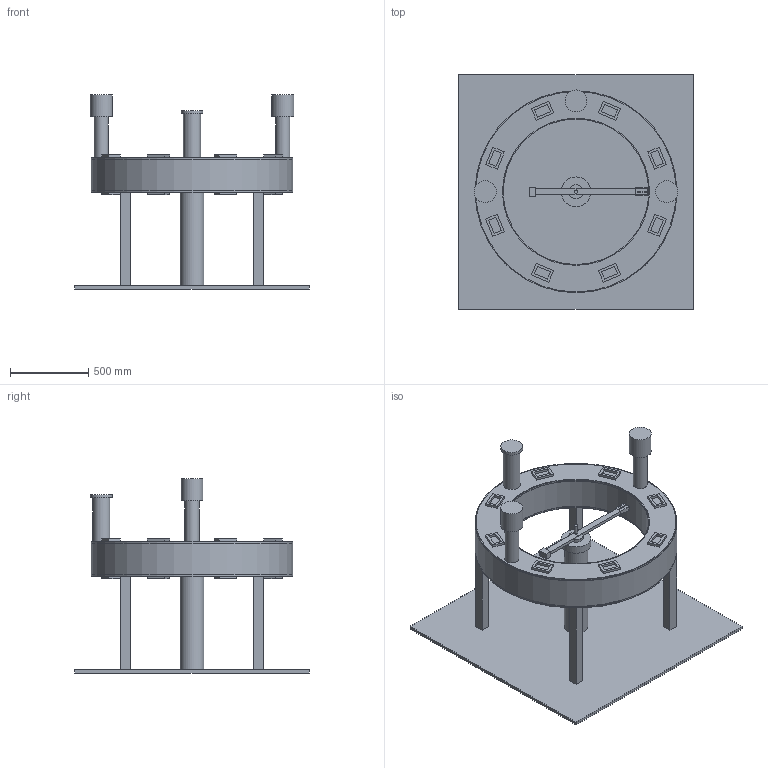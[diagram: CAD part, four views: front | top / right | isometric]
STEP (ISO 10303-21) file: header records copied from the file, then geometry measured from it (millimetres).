
FILE_DESCRIPTION(('Open CASCADE Model'),'2;1');
FILE_NAME('Open CASCADE Shape Model','2026-11-13T06:43:58',('Author'),( 'Open CASCADE'),'Open CASCADE STEP processor 7.9','Open CASCADE 7.9' ,'Unknown');
FILE_SCHEMA(('AUTOMOTIVE_DESIGN { 1 0 10303 214 1 1 1 1 }'));
Length unit declared in the file: millimetre
Products named in the file (56): T2b_ring_and_mapper; 00_PANCAKE_1; 01_PANCAKE_2; 02_PANCAKE_3; 03_PANCAKE_4; 04_FORMER; 05_OVERBAND; 06_SHIELD; 07_VACUUM_VESSEL; 08_STRUT_1; 09_LEG_1; 10_STRUT_2; 11_LEG_2; 12_STRUT_3; 13_LEG_3; 14_STRUT_4; 15_LEG_4; 16_COLD_HEAD_1; 17_COOLER_MOTOR_1; 18_THERMAL_LINK_1; 19_COLD_HEAD_2; 20_COOLER_MOTOR_2; 21_THERMAL_LINK_2; 22_LEAD_TURRET; 23_LEAD_TOP; 24_TRIM_U1; 25_TRIM_L1; 26_TRIM_U2; 27_TRIM_L2; 28_TRIM_U3; 29_TRIM_L3; 30_TRIM_U4; 31_TRIM_L4; 32_TRIM_U5; 33_TRIM_L5; 34_TRIM_U6; 35_TRIM_L6; 36_TRIM_U7; 37_TRIM_L7; 38_TRIM_U8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
Assembly tree (55 placements, depth 2):
  T2b_ring_and_mapper
    00_PANCAKE_1
    01_PANCAKE_2
    02_PANCAKE_3
    03_PANCAKE_4
    04_FORMER
    05_OVERBAND
    06_SHIELD
    07_VACUUM_VESSEL
    08_STRUT_1
    09_LEG_1
    10_STRUT_2
    11_LEG_2
    12_STRUT_3
    13_LEG_3
    14_STRUT_4
    15_LEG_4
    16_COLD_HEAD_1
    17_COOLER_MOTOR_1
    18_THERMAL_LINK_1
    19_COLD_HEAD_2
    20_COOLER_MOTOR_2
    21_THERMAL_LINK_2
    22_LEAD_TURRET
    23_LEAD_TOP
    24_TRIM_U1
    25_TRIM_L1
    26_TRIM_U2
    27_TRIM_L2
    28_TRIM_U3
    29_TRIM_L3
    30_TRIM_U4
    31_TRIM_L4
    32_TRIM_U5
    33_TRIM_L5
    34_TRIM_U6
    35_TRIM_L6
    36_TRIM_U7
    37_TRIM_L7
    38_TRIM_U8
    39_TRIM_L8
    40_COLUMN
    41_ROTARY_STAGE
    42_HUB
    43_ARM
    44_COUNTERARM
    45_COUNTERWEIGHT
    46_PROBE_HEAD
    47_HALL_1
    48_HALL_2
    49_HALL_3
    50_HALL_4
    51_HALL_5
    52_SEARCH_COIL
    53_NMR_PROBE
    54_FLOOR_PLATE
Bounding box: 1500 x 1500 x 1240 mm (x, y, z)
Volume: 108000695 mm3; surface area: 19487605.9 mm2
Topology: 55 solids, 57 shells, 367 faces, 727 edges, 484 vertices
Faces by surface type: plane 320, cylinder 47
Full cylindrical faces by diameter (mm): 16 x4, 20 x1, 90 x3, 110 x1, 130 x1, 140 x3, 150 x1, 190 x1, 930 x3, 940 x1, 956 x3, 962 x1, 976 x3, 1000 x5, 1060 x5, 1072 x1, 1090 x2, 1234 x1, 1240 x3, 1280 x1, 1290 x3
Entity records: 20239 total; most frequent: DIRECTION 3117, CARTESIAN_POINT 3090, LINE 1997, VECTOR 1997, ORIENTED_EDGE 1454, PCURVE 1454, DEFINITIONAL_REPRESENTATION 1454, EDGE_CURVE 727
